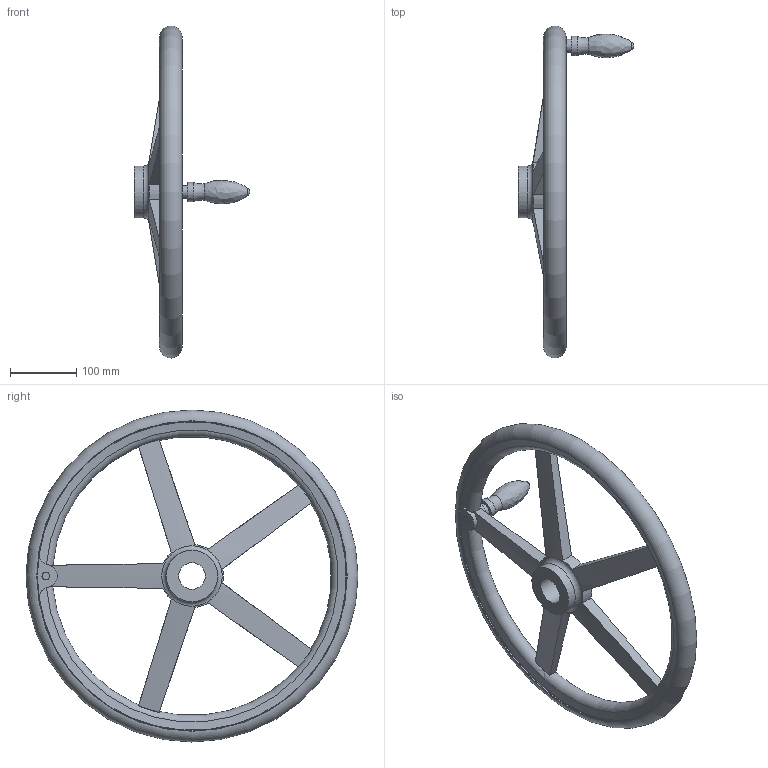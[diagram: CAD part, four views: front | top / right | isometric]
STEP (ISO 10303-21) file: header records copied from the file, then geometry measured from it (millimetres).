
FILE_DESCRIPTION( ( 'STEP AP203' ), '1' );
FILE_NAME( 'C:/Temp/Ganter_Step_05_03_2020/data/1_3/din_950/din_950_b/din_950_b_d/Handwheel DIN 950-AL-500-B40-D.stp', '2020-03-05T10:30:00', ( 'License CC BY-ND 4.0' ), ( 'CADENAS' ), ' ', 'PARTsolutions', ' ' );
FILE_SCHEMA( ( 'CONFIG_CONTROL_DESIGN' ) );
Length unit declared in the file: millimetre
Products named in the file (1): _Handwheel DIN 950-AL-500-B40-D
Bounding box: 174 x 499.98 x 499.98 mm (x, y, z)
Volume: 2140479.4 mm3; surface area: 289425.1 mm2
Topology: 1 solids, 1 shells, 63 faces, 182 edges, 117 vertices
Faces by surface type: torus 21, cylinder 18, plane 16, cone 6, bspline 1, sphere 1
Full cylindrical faces by diameter (mm): 20 x1, 29 x1, 40 x1, 78 x2, 466 x2
Entity records: 2535 total; most frequent: CARTESIAN_POINT 1017, ORIENTED_EDGE 310, DIRECTION 278, EDGE_CURVE 155, AXIS2_PLACEMENT_3D 132, VERTEX_POINT 113, EDGE_LOOP 92, FACE_OUTER_BOUND 79
